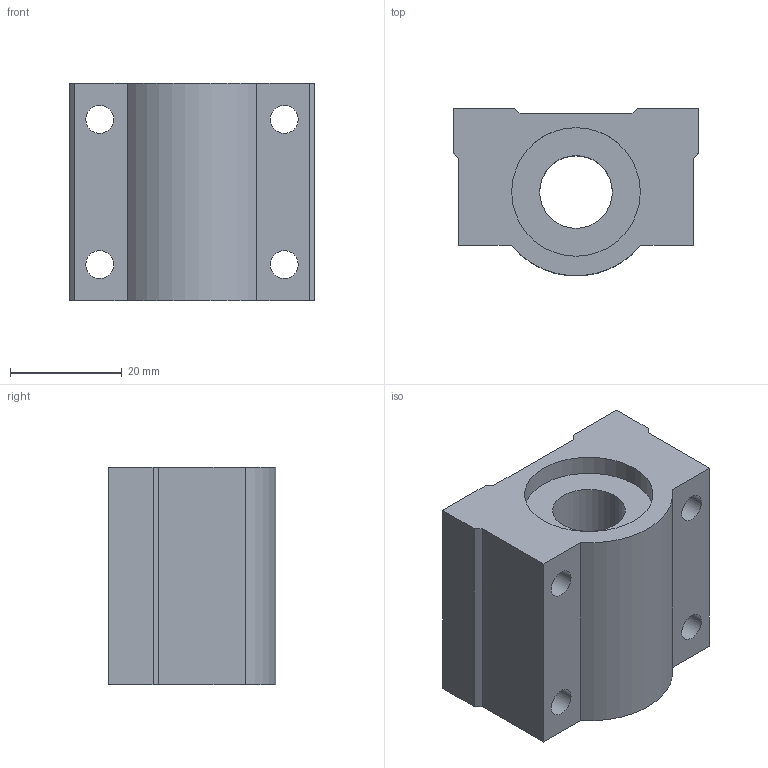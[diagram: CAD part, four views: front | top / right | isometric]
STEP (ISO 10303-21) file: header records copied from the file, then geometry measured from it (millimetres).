
FILE_DESCRIPTION((''),'2;1');
FILE_NAME('C:\Documents and Settings\ｿﾀﾀ蠑ｷ1\ｹﾙﾅﾁ ﾈｭｸ饅\ｺﾎﾇｰﾆﾄﾀﾏ\ﾁｦﾇｰ\SC__UU\SC13UU.stp','2005-06-22T14:42:21',('ｿﾀﾀ蠑ｷ1'),(''),'Autodesk Inventor 9','Autodesk Inventor 9','');
FILE_SCHEMA(('AUTOMOTIVE_DESIGN { 1 0 10303 214 1 1 1 1 }'));
Length unit declared in the file: millimetre
Products named in the file (1): SC__UU
Bounding box: 44 x 29.95 x 39 mm (x, y, z)
Volume: 34359.7 mm3; surface area: 10616.5 mm2
Topology: 1 solids, 1 shells, 32 faces, 84 edges, 56 vertices
Faces by surface type: plane 17, bspline 8, cylinder 7
Entity records: 1145 total; most frequent: CARTESIAN_POINT 309, ORIENTED_EDGE 168, DIRECTION 164, EDGE_CURVE 84, VERTEX_POINT 56, AXIS2_PLACEMENT_3D 55, VECTOR 54, LINE 54
